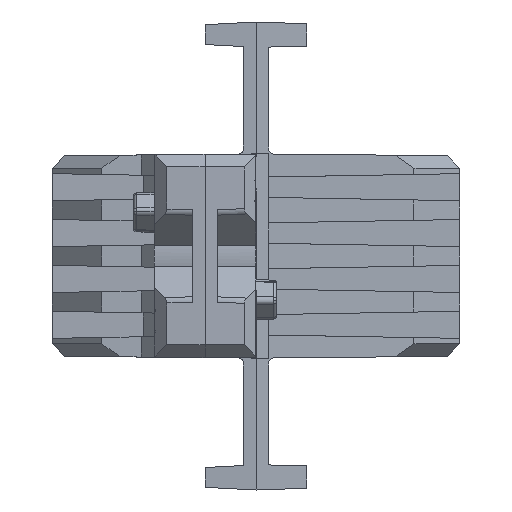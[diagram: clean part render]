
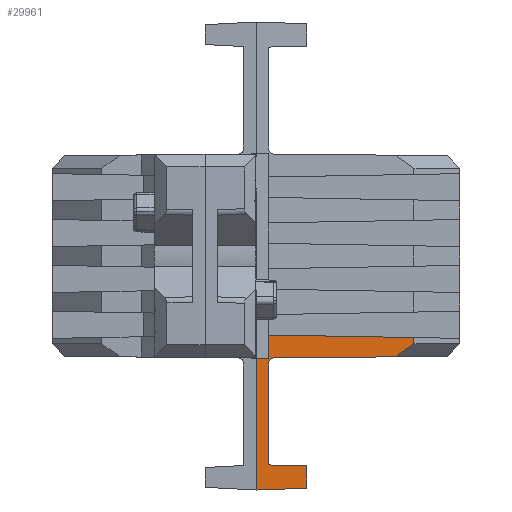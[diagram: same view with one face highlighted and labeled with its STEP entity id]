
A CAD part, left-side view. The second image highlights one B-rep face of the part: STEP entity #29961.
In plain terms, the highlighted planar face has unit normal (-0.999, -0.035, 0) as drawn and (-0.999, 0.035, 0) by its records, which use the part's own axes.
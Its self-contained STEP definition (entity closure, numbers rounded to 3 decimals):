
#4781=CARTESIAN_POINT(' ',(-27.067,33.654,9.892));
#4782=VERTEX_POINT(' ',#4781);
#4796=CARTESIAN_POINT(' ',(-27.483,21.746,9.996));
#4801=DIRECTION(' ',(0.035,0.999,-0.009));
#4806=VECTOR(' ',#4801,1.);
#4811=LINE('',#4796,#4806);
#4816=CARTESIAN_POINT(' ',(-27.483,21.746,9.996));
#4817=VERTEX_POINT(' ',#4816);
#4821=EDGE_CURVE(' ',#4817,#4782,#4811,.T.);
#29501=CARTESIAN_POINT(' ',(-27.002,35.498,8.626));
#29502=VERTEX_POINT(' ',#29501);
#29516=CARTESIAN_POINT(' ',(-27.002,35.498,8.626));
#29521=DIRECTION(' ',(-0.029,-0.824,0.566));
#29526=VECTOR(' ',#29521,1.);
#29531=LINE('',#29516,#29526);
#29536=EDGE_CURVE(' ',#29502,#4782,#29531,.T.);
#29566=DIRECTION(' ',(-0.999,0.035,0.));
#29571=CARTESIAN_POINT(' ',(-27.002,35.498,7.751));
#29576=DIRECTION(' ',(-0.035,-0.999,0.));
#29581=AXIS2_PLACEMENT_3D(' ',#29571,#29566,#29576);
#29586=PLANE('NONE',#29581);
#29591=CARTESIAN_POINT(' ',(-27.369,25.,20.565));
#29596=DIRECTION(' ',(-0.035,-0.999,-0.017));
#29601=VECTOR(' ',#29596,1.);
#29606=LINE('',#29591,#29601);
#29611=CARTESIAN_POINT(' ',(-27.369,25.,20.565));
#29612=VERTEX_POINT(' ',#29611);
#29616=CARTESIAN_POINT(' ',(-27.5,21.25,20.5));
#29617=VERTEX_POINT(' ',#29616);
#29621=EDGE_CURVE(' ',#29612,#29617,#29606,.T.);
#29626=ORIENTED_EDGE(' ',*,*,#29621,.T.);
#29631=CARTESIAN_POINT(' ',(-27.5,21.25,20.5));
#29636=DIRECTION(' ',(0.,0.,-1.));
#29641=VECTOR(' ',#29636,1.);
#29646=LINE('',#29631,#29641);
#29651=CARTESIAN_POINT(' ',(-27.5,21.25,10.496));
#29652=VERTEX_POINT(' ',#29651);
#29656=EDGE_CURVE(' ',#29617,#29652,#29646,.T.);
#29661=ORIENTED_EDGE(' ',*,*,#29656,.T.);
#29666=CARTESIAN_POINT(' ',(-27.483,21.75,10.496));
#29671=DIRECTION(' ',(0.999,-0.035,0.));
#29676=DIRECTION(' ',(-0.035,-0.999,-0.001));
#29681=AXIS2_PLACEMENT_3D(' ',#29666,#29671,#29676);
#29686=CIRCLE('',#29681,0.5);
#29691=EDGE_CURVE(' ',#29652,#4817,#29686,.T.);
#29696=ORIENTED_EDGE(' ',*,*,#29691,.T.);
#29701=ORIENTED_EDGE(' ',*,*,#4821,.T.);
#29706=ORIENTED_EDGE(' ',*,*,#29536,.F.);
#29711=CARTESIAN_POINT(' ',(-27.002,35.498,8.626));
#29716=DIRECTION(' ',(0.,0.,-1.));
#29721=VECTOR(' ',#29716,1.);
#29726=LINE('',#29711,#29721);
#29731=CARTESIAN_POINT(' ',(-27.002,35.498,8.));
#29732=VERTEX_POINT(' ',#29731);
#29736=EDGE_CURVE(' ',#29502,#29732,#29726,.T.);
#29741=ORIENTED_EDGE(' ',*,*,#29736,.T.);
#29746=CARTESIAN_POINT(' ',(-27.002,35.498,8.));
#29751=DIRECTION(' ',(-0.035,-0.999,-0.017));
#29756=VECTOR(' ',#29751,1.);
#29761=LINE('',#29746,#29756);
#29766=CARTESIAN_POINT(' ',(-27.5,21.25,7.751));
#29767=VERTEX_POINT(' ',#29766);
#29771=EDGE_CURVE(' ',#29732,#29767,#29761,.T.);
#29776=ORIENTED_EDGE(' ',*,*,#29771,.T.);
#29781=CARTESIAN_POINT(' ',(-27.5,21.25,10.022));
#29786=DIRECTION(' ',(0.,0.,-1.));
#29791=VECTOR(' ',#29786,1.);
#29796=LINE('',#29781,#29791);
#29801=CARTESIAN_POINT(' ',(-27.5,21.25,10.022));
#29802=VERTEX_POINT(' ',#29801);
#29806=EDGE_CURVE(' ',#29802,#29767,#29796,.T.);
#29811=ORIENTED_EDGE(' ',*,*,#29806,.F.);
#29816=CARTESIAN_POINT(' ',(-27.5,21.25,10.022));
#29821=DIRECTION(' ',(-0.035,-0.999,-0.009));
#29826=VECTOR(' ',#29821,1.);
#29831=LINE('',#29816,#29826);
#29836=CARTESIAN_POINT(' ',(-27.543,20.006,10.011));
#29837=VERTEX_POINT(' ',#29836);
#29841=EDGE_CURVE(' ',#29802,#29837,#29831,.T.);
#29846=ORIENTED_EDGE(' ',*,*,#29841,.T.);
#29851=CARTESIAN_POINT(' ',(-27.543,20.006,10.011));
#29856=DIRECTION(' ',(0.,0.,1.));
#29861=VECTOR(' ',#29856,1.);
#29866=LINE('',#29851,#29861);
#29871=CARTESIAN_POINT(' ',(-27.543,20.006,22.956));
#29872=VERTEX_POINT(' ',#29871);
#29876=EDGE_CURVE(' ',#29837,#29872,#29866,.T.);
#29881=ORIENTED_EDGE(' ',*,*,#29876,.T.);
#29886=CARTESIAN_POINT(' ',(-27.543,20.006,22.956));
#29891=DIRECTION(' ',(0.035,0.999,-0.035));
#29896=VECTOR(' ',#29891,1.);
#29901=LINE('',#29886,#29896);
#29906=CARTESIAN_POINT(' ',(-27.369,25.,22.782));
#29907=VERTEX_POINT(' ',#29906);
#29911=EDGE_CURVE(' ',#29872,#29907,#29901,.T.);
#29916=ORIENTED_EDGE(' ',*,*,#29911,.T.);
#29921=CARTESIAN_POINT(' ',(-27.369,25.,22.782));
#29926=DIRECTION(' ',(0.,0.,-1.));
#29931=VECTOR(' ',#29926,1.);
#29936=LINE('',#29921,#29931);
#29941=EDGE_CURVE(' ',#29907,#29612,#29936,.T.);
#29946=ORIENTED_EDGE(' ',*,*,#29941,.T.);
#29951=EDGE_LOOP(' ',(#29626,#29661,#29696,#29701,#29706,#29741,#29776,#29811,#29846,#29881,#29916,#29946));
#29956=FACE_OUTER_BOUND(' ',#29951,.T.);
#29961=ADVANCED_FACE('NONE',(#29956),#29586,.T.);
